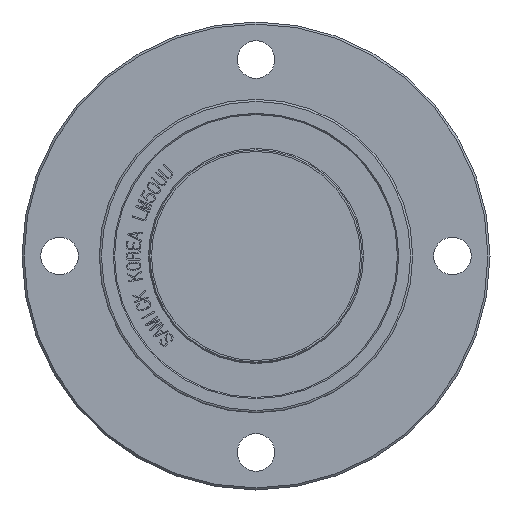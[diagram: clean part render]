
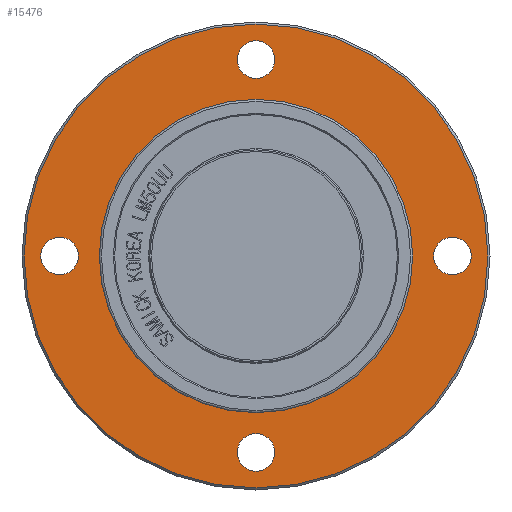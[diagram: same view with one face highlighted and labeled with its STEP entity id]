
A CAD part, front view. The second image highlights one B-rep face of the part: STEP entity #15476.
In plain terms, the highlighted planar face has unit normal (0, -1, 0).
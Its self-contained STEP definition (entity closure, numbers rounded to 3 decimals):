
#4506=FACE_BOUND('',#5437,.T.);
#4507=FACE_BOUND('',#5438,.T.);
#4508=FACE_BOUND('',#5439,.T.);
#4509=FACE_BOUND('',#5440,.T.);
#4510=FACE_BOUND('',#5441,.T.);
#4581=FACE_OUTER_BOUND('',#5436,.T.);
#5436=EDGE_LOOP('',(#10493,#10494));
#5437=EDGE_LOOP('',(#10495));
#5438=EDGE_LOOP('',(#10496));
#5439=EDGE_LOOP('',(#10497));
#5440=EDGE_LOOP('',(#10498));
#5441=EDGE_LOOP('',(#10499,#10500));
#6337=CIRCLE('',#16340,4.5);
#6343=CIRCLE('',#16349,4.5);
#6349=CIRCLE('',#16358,4.5);
#6355=CIRCLE('',#16367,4.5);
#6362=CIRCLE('',#16377,55.5);
#6363=CIRCLE('',#16378,55.5);
#6364=CIRCLE('',#16380,37.5);
#6365=CIRCLE('',#16381,37.5);
#6411=VERTEX_POINT('',#18455);
#6417=VERTEX_POINT('',#18472);
#6423=VERTEX_POINT('',#18489);
#6429=VERTEX_POINT('',#18506);
#6436=VERTEX_POINT('',#18526);
#6437=VERTEX_POINT('',#18527);
#6438=VERTEX_POINT('',#18532);
#6439=VERTEX_POINT('',#18533);
#8025=EDGE_CURVE('',#6411,#6411,#6337,.T.);
#8033=EDGE_CURVE('',#6417,#6417,#6343,.T.);
#8041=EDGE_CURVE('',#6423,#6423,#6349,.T.);
#8049=EDGE_CURVE('',#6429,#6429,#6355,.T.);
#8058=EDGE_CURVE('',#6436,#6437,#6362,.T.);
#8059=EDGE_CURVE('',#6437,#6436,#6363,.T.);
#8061=EDGE_CURVE('',#6438,#6439,#6364,.T.);
#8062=EDGE_CURVE('',#6439,#6438,#6365,.T.);
#10493=ORIENTED_EDGE('',*,*,#8058,.T.);
#10494=ORIENTED_EDGE('',*,*,#8059,.T.);
#10495=ORIENTED_EDGE('',*,*,#8025,.T.);
#10496=ORIENTED_EDGE('',*,*,#8033,.T.);
#10497=ORIENTED_EDGE('',*,*,#8041,.T.);
#10498=ORIENTED_EDGE('',*,*,#8049,.T.);
#10499=ORIENTED_EDGE('',*,*,#8061,.F.);
#10500=ORIENTED_EDGE('',*,*,#8062,.F.);
#15237=PLANE('',#16379);
#15476=ADVANCED_FACE('',(#4581,#4506,#4507,#4508,#4509,#4510),#15237,.T.);
#16340=AXIS2_PLACEMENT_3D('',#18457,#16677,#16678);
#16349=AXIS2_PLACEMENT_3D('',#18474,#16697,#16698);
#16358=AXIS2_PLACEMENT_3D('',#18491,#16717,#16718);
#16367=AXIS2_PLACEMENT_3D('',#18508,#16737,#16738);
#16377=AXIS2_PLACEMENT_3D('',#18528,#16759,#16760);
#16378=AXIS2_PLACEMENT_3D('',#18529,#16761,#16762);
#16379=AXIS2_PLACEMENT_3D('',#18531,#16764,#16765);
#16380=AXIS2_PLACEMENT_3D('',#18534,#16766,#16767);
#16381=AXIS2_PLACEMENT_3D('',#18535,#16768,#16769);
#16677=DIRECTION('center_axis',(0.,1.,0.));
#16678=DIRECTION('ref_axis',(0.,0.,
1.));
#16697=DIRECTION('center_axis',(0.,1.,0.));
#16698=DIRECTION('ref_axis',(-1.,0.,0.));
#16717=DIRECTION('center_axis',(0.,1.,0.));
#16718=DIRECTION('ref_axis',(0.,0.,
-1.));
#16737=DIRECTION('center_axis',(0.,1.,0.));
#16738=DIRECTION('ref_axis',(1.,0.,0.));
#16759=DIRECTION('center_axis',(0.,-1.,0.));
#16760=DIRECTION('ref_axis',(1.,0.,0.));
#16761=DIRECTION('center_axis',(0.,-1.,0.));
#16762=DIRECTION('ref_axis',(1.,0.,0.));
#16764=DIRECTION('center_axis',(0.,-1.,0.));
#16765=DIRECTION('ref_axis',(0.,0.,-1.));
#16766=DIRECTION('center_axis',(0.,-1.,0.));
#16767=DIRECTION('ref_axis',(1.,0.,0.));
#16768=DIRECTION('center_axis',(0.,-1.,0.));
#16769=DIRECTION('ref_axis',(1.,0.,0.));
#18455=CARTESIAN_POINT('',(0.,37.,42.5));
#18457=CARTESIAN_POINT('Origin',(0.,37.,47.));
#18472=CARTESIAN_POINT('',(-42.5,37.,0.));
#18474=CARTESIAN_POINT('Origin',(-47.,37.,0.));
#18489=CARTESIAN_POINT('',(0.,37.,-42.5));
#18491=CARTESIAN_POINT('Origin',(0.,37.,-47.));
#18506=CARTESIAN_POINT('',(42.5,37.,0.));
#18508=CARTESIAN_POINT('Origin',(47.,37.,0.));
#18526=CARTESIAN_POINT('',(55.5,37.,0.));
#18527=CARTESIAN_POINT('',(-55.5,37.,0.));
#18528=CARTESIAN_POINT('Origin',(0.,37.,0.));
#18529=CARTESIAN_POINT('Origin',(0.,37.,0.));
#18531=CARTESIAN_POINT('Origin',(37.5,37.,0.));
#18532=CARTESIAN_POINT('',(37.5,37.,0.));
#18533=CARTESIAN_POINT('',(-37.5,37.,0.));
#18534=CARTESIAN_POINT('Origin',(0.,37.,0.));
#18535=CARTESIAN_POINT('Origin',(0.,37.,0.));
